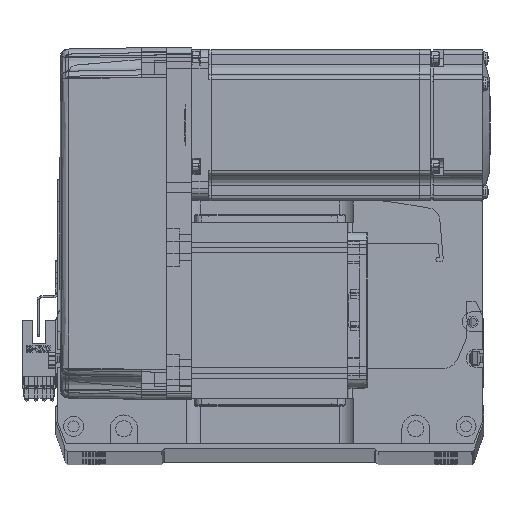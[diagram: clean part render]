
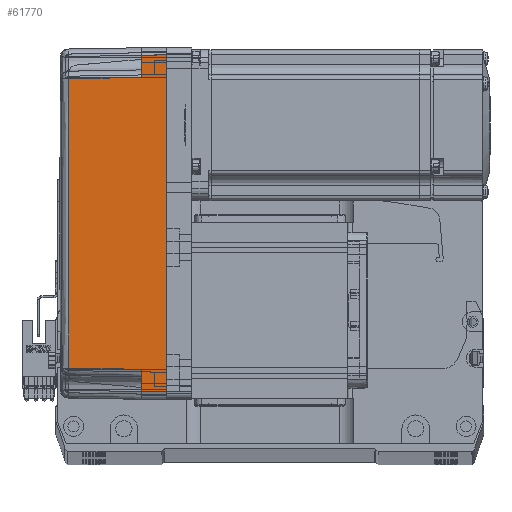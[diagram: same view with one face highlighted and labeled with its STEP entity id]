
A CAD part, top view. The second image highlights one B-rep face of the part: STEP entity #61770.
In plain terms, the highlighted planar face has unit normal (-0.018, 0, 1) as drawn and (0, 1, 0.017) by its records, which use the part's own axes.
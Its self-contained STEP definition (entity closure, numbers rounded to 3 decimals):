
#121 = DIRECTION ( 'NONE',  ( 1., 0., 0. ) ) ;
#819 = LINE ( 'NONE', #66162, #66790 ) ;
#1561 = CARTESIAN_POINT ( 'NONE',  ( -66.826, 35.825, 10. ) ) ;
#2031 = ORIENTED_EDGE ( 'NONE', *, *, #59580, .F. ) ;
#2034 = VERTEX_POINT ( 'NONE', #43820 ) ;
#2922 = ORIENTED_EDGE ( 'NONE', *, *, #31340, .T. ) ;
#3763 = VERTEX_POINT ( 'NONE', #56444 ) ;
#4817 = EDGE_CURVE ( 'NONE', #40731, #53792, #53975, .T. ) ;
#5122 = CARTESIAN_POINT ( 'NONE',  ( -67., 36., 0. ) ) ;
#5126 = PLANE ( 'NONE',  #29176 ) ;
#5246 = DIRECTION ( 'NONE',  ( 1., 0., 0. ) ) ;
#8157 = VECTOR ( 'NONE', #39145, 1000. ) ;
#9701 = DIRECTION ( 'NONE',  ( 0., 1., 0.017 ) ) ;
#11365 = CARTESIAN_POINT ( 'NONE',  ( 70., 35.825, 10. ) ) ;
#14688 = CARTESIAN_POINT ( 'NONE',  ( -19.165, 35.316, 39.181 ) ) ;
#16473 = DIRECTION ( 'NONE',  ( 0.017, -0.017, 1. ) ) ;
#17094 = VECTOR ( 'NONE', #16473, 1000. ) ;
#17332 = VERTEX_POINT ( 'NONE', #49627 ) ;
#17684 = CARTESIAN_POINT ( 'NONE',  ( 58., 35.825, 10. ) ) ;
#18616 = EDGE_CURVE ( 'NONE', #32740, #17332, #819, .T. ) ;
#21222 = EDGE_CURVE ( 'NONE', #3763, #53015, #41594, .T. ) ;
#22791 = CARTESIAN_POINT ( 'NONE',  ( 67.001, 36.001, -0.052 ) ) ;
#23753 = CARTESIAN_POINT ( 'NONE',  ( 57.495, 35.32, 38.985 ) ) ;
#24432 = VECTOR ( 'NONE', #66120, 1000. ) ;
#27235 = ORIENTED_EDGE ( 'NONE', *, *, #51459, .F. ) ;
#28273 = FACE_OUTER_BOUND ( 'NONE', #28940, .T. ) ;
#28940 = EDGE_LOOP ( 'NONE', ( #33045, #36523, #29691, #31552, #41103, #2922, #2031, #27235 ) ) ;
#29176 = AXIS2_PLACEMENT_3D ( 'NONE', #31745, #9701, #69728 ) ;
#29223 = VECTOR ( 'NONE', #33907, 1000. ) ;
#29691 = ORIENTED_EDGE ( 'NONE', *, *, #18616, .T. ) ;
#30568 = CARTESIAN_POINT ( 'NONE',  ( 19.165, 35.316, 39.181 ) ) ;
#31340 = EDGE_CURVE ( 'NONE', #53015, #43271, #60110, .T. ) ;
#31552 = ORIENTED_EDGE ( 'NONE', *, *, #33765, .T. ) ;
#31745 = CARTESIAN_POINT ( 'NONE',  ( 70., 36., 0. ) ) ;
#32740 = VERTEX_POINT ( 'NONE', #60773 ) ;
#33045 = ORIENTED_EDGE ( 'NONE', *, *, #4817, .T. ) ;
#33278 = CARTESIAN_POINT ( 'NONE',  ( 0., 36., 0. ) ) ;
#33385 = DIRECTION ( 'NONE',  ( 0.017, -0.017, 1. ) ) ;
#33765 = EDGE_CURVE ( 'NONE', #17332, #3763, #43713, .T. ) ;
#33907 = DIRECTION ( 'NONE',  ( 1., 0., 0. ) ) ;
#34449 = VECTOR ( 'NONE', #5246, 1000. ) ;
#34577 = CARTESIAN_POINT ( 'NONE',  ( 66.826, 35.825, 10. ) ) ;
#35182 = VECTOR ( 'NONE', #121, 1000. ) ;
#36523 = ORIENTED_EDGE ( 'NONE', *, *, #66083, .T. ) ;
#39040 = LINE ( 'NONE', #22791, #24432 ) ;
#39145 = DIRECTION ( 'NONE',  ( 0.017, 0.017, -1. ) ) ;
#40731 = VERTEX_POINT ( 'NONE', #5122 ) ;
#41103 = ORIENTED_EDGE ( 'NONE', *, *, #21222, .T. ) ;
#41594 = LINE ( 'NONE', #23753, #8157 ) ;
#43271 = VERTEX_POINT ( 'NONE', #34577 ) ;
#43713 = B_SPLINE_CURVE_WITH_KNOTS ( 'NONE', 3,
 ( #46611, #14688, #30568, #58136 ),
 .UNSPECIFIED., .F., .F.,
 ( 4, 4 ),
 ( 0., 1. ),
 .UNSPECIFIED. ) ;
#43820 = CARTESIAN_POINT ( 'NONE',  ( 67., 36., 0. ) ) ;
#43825 = CARTESIAN_POINT ( 'NONE',  ( -67., 36., 0. ) ) ;
#43879 = CARTESIAN_POINT ( 'NONE',  ( 70., 35.825, 10. ) ) ;
#46611 = CARTESIAN_POINT ( 'NONE',  ( -57.495, 35.32, 38.985 ) ) ;
#48995 = LINE ( 'NONE', #33278, #34449 ) ;
#49627 = CARTESIAN_POINT ( 'NONE',  ( -57.495, 35.32, 38.985 ) ) ;
#51459 = EDGE_CURVE ( 'NONE', #40731, #2034, #48995, .T. ) ;
#53015 = VERTEX_POINT ( 'NONE', #17684 ) ;
#53792 = VERTEX_POINT ( 'NONE', #1561 ) ;
#53975 = LINE ( 'NONE', #43825, #17094 ) ;
#56444 = CARTESIAN_POINT ( 'NONE',  ( 57.495, 35.32, 38.985 ) ) ;
#58136 = CARTESIAN_POINT ( 'NONE',  ( 57.495, 35.32, 38.985 ) ) ;
#59580 = EDGE_CURVE ( 'NONE', #2034, #43271, #39040, .T. ) ;
#60110 = LINE ( 'NONE', #43879, #29223 ) ;
#60773 = CARTESIAN_POINT ( 'NONE',  ( -58., 35.825, 10. ) ) ;
#60866 = LINE ( 'NONE', #11365, #35182 ) ;
#61770 = ADVANCED_FACE ( 'NONE', ( #28273 ), #5126, .T. ) ;
#66083 = EDGE_CURVE ( 'NONE', #53792, #32740, #60866, .T. ) ;
#66120 = DIRECTION ( 'NONE',  ( -0.017, -0.017, 1. ) ) ;
#66162 = CARTESIAN_POINT ( 'NONE',  ( -58., 35.825, 10. ) ) ;
#66790 = VECTOR ( 'NONE', #33385, 1000. ) ;
#69728 = DIRECTION ( 'NONE',  ( 0., -0.017, 1. ) ) ;
